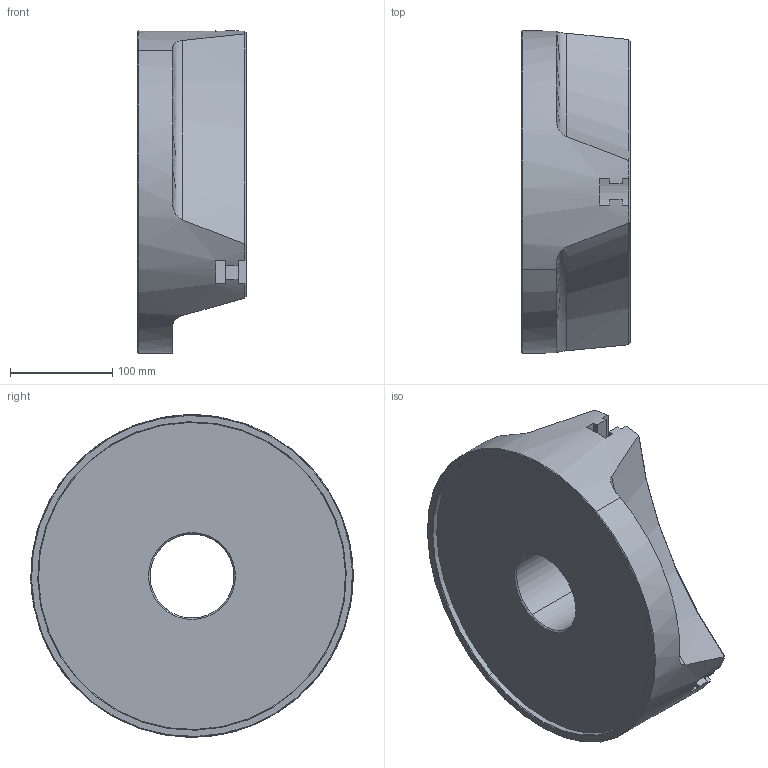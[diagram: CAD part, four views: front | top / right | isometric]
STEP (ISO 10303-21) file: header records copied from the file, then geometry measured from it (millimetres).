
FILE_DESCRIPTION(('CATIA V5 STEP Exchange'),'2;1');
FILE_NAME('D:\Clients_NCS8\Cenit-AG\Import\OKUMA250\C1.stp','2005-03-09T16:50:34+00:00',('none'),('none'),'CATIA Version 5 Release 14 (IN-10)','CATIA V5 STEP AP203','none');
FILE_SCHEMA(('CONFIG_CONTROL_DESIGN'));
Length unit declared in the file: millimetre
Products named in the file (2): okuma_dr-fr; FORKART_FNC315
Assembly tree (2 placements, depth 3):
  okuma_dr-fr
    FORKART_FNC315
      #62
Bounding box: 106 x 314.91 x 314.91 mm (x, y, z)
Volume: 5003780.9 mm3; surface area: 284417.1 mm2
Topology: 1 solids, 1 shells, 73 faces, 205 edges, 134 vertices
Faces by surface type: plane 41, cone 23, cylinder 6, torus 3
Entity records: 2283 total; most frequent: CARTESIAN_POINT 537, ORIENTED_EDGE 410, DIRECTION 249, EDGE_CURVE 205, VERTEX_POINT 134, AXIS2_PLACEMENT_3D 123, VECTOR 86, LINE 86
